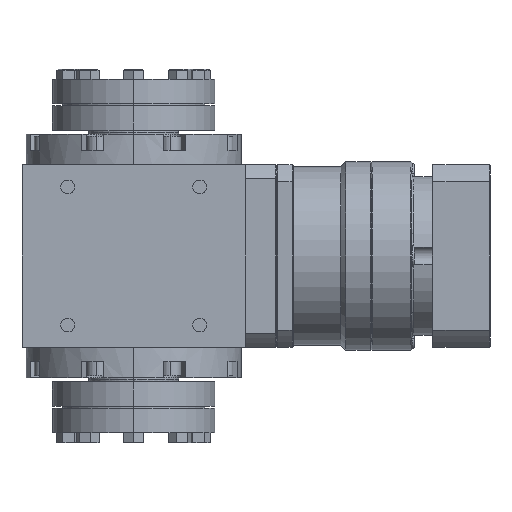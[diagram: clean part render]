
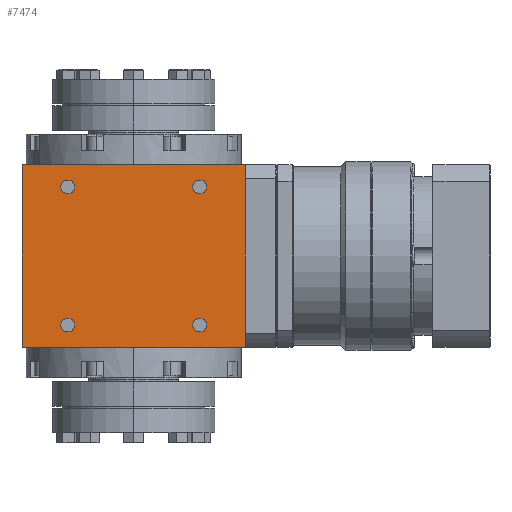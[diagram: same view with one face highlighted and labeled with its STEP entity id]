
A CAD part, left-side view. The second image highlights one B-rep face of the part: STEP entity #7474.
In plain terms, the highlighted planar face has unit normal (-1, 0, 0).
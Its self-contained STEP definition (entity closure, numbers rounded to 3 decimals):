
#192 = VECTOR ( 'NONE', #27495, 1000. ) ;
#566 = DIRECTION ( 'NONE',  ( 0., -1., 0. ) ) ;
#2535 = DIRECTION ( 'NONE',  ( 0., -1., 0. ) ) ;
#2715 = AXIS2_PLACEMENT_3D ( 'NONE', #11948, #23402, #9134 ) ;
#3627 = VERTEX_POINT ( 'NONE', #36819 ) ;
#4013 = EDGE_CURVE ( 'NONE', #25748, #35798, #10346, .T. ) ;
#4067 = CARTESIAN_POINT ( 'NONE',  ( -55., -55., 45. ) ) ;
#5094 = ORIENTED_EDGE ( 'NONE', *, *, #4013, .F. ) ;
#5276 = VERTEX_POINT ( 'NONE', #4067 ) ;
#5496 = LINE ( 'NONE', #11122, #192 ) ;
#5832 = EDGE_LOOP ( 'NONE', ( #14147, #25039 ) ) ;
#6350 = DIRECTION ( 'NONE',  ( 1., 0., 0. ) ) ;
#6652 = ORIENTED_EDGE ( 'NONE', *, *, #25145, .T. ) ;
#6790 = ORIENTED_EDGE ( 'NONE', *, *, #32223, .T. ) ;
#6847 = EDGE_CURVE ( 'NONE', #36413, #5276, #8997, .T. ) ;
#7474 = ADVANCED_FACE ( 'NONE', ( #22229, #28388, #12701, #8329, #19777 ), #30662, .T. ) ;
#7531 = VERTEX_POINT ( 'NONE', #30852 ) ;
#7537 = CARTESIAN_POINT ( 'NONE',  ( -55., 55., -45. ) ) ;
#7595 = DIRECTION ( 'NONE',  ( 1., 0., 0. ) ) ;
#7823 = VERTEX_POINT ( 'NONE', #21449 ) ;
#7858 = VERTEX_POINT ( 'NONE', #28164 ) ;
#7921 = DIRECTION ( 'NONE',  ( 0., -1., 0. ) ) ;
#8092 = EDGE_CURVE ( 'NONE', #11509, #19684, #22228, .T. ) ;
#8329 = FACE_BOUND ( 'NONE', #33031, .T. ) ;
#8621 = CARTESIAN_POINT ( 'NONE',  ( -55., 29.1, 34. ) ) ;
#8997 = LINE ( 'NONE', #20094, #31235 ) ;
#9020 = ORIENTED_EDGE ( 'NONE', *, *, #16186, .T. ) ;
#9134 = DIRECTION ( 'NONE',  ( 0., -1., 0. ) ) ;
#9216 = EDGE_CURVE ( 'NONE', #7531, #7858, #16487, .T. ) ;
#9845 = CARTESIAN_POINT ( 'NONE',  ( -55., 32.5, -34. ) ) ;
#10288 = AXIS2_PLACEMENT_3D ( 'NONE', #25000, #33623, #7921 ) ;
#10346 = LINE ( 'NONE', #7537, #15539 ) ;
#10844 = CIRCLE ( 'NONE', #30016, 3.4 ) ;
#10940 = VERTEX_POINT ( 'NONE', #17316 ) ;
#11026 = CARTESIAN_POINT ( 'NONE',  ( -55., 55., -45. ) ) ;
#11122 = CARTESIAN_POINT ( 'NONE',  ( -55., 0., -45. ) ) ;
#11414 = AXIS2_PLACEMENT_3D ( 'NONE', #24156, #33666, #35582 ) ;
#11509 = VERTEX_POINT ( 'NONE', #24015 ) ;
#11567 = CARTESIAN_POINT ( 'NONE',  ( -55., -32.5, 34. ) ) ;
#11629 = DIRECTION ( 'NONE',  ( 0., 0., 1. ) ) ;
#11948 = CARTESIAN_POINT ( 'NONE',  ( -55., 32.5, -34. ) ) ;
#12098 = DIRECTION ( 'NONE',  ( 0., -1., 0. ) ) ;
#12550 = DIRECTION ( 'NONE',  ( 1., 0., 0. ) ) ;
#12701 = FACE_BOUND ( 'NONE', #16538, .T. ) ;
#13368 = CIRCLE ( 'NONE', #18800, 3.4 ) ;
#14147 = ORIENTED_EDGE ( 'NONE', *, *, #24860, .T. ) ;
#15010 = CARTESIAN_POINT ( 'NONE',  ( -55., 0., 45. ) ) ;
#15182 = CARTESIAN_POINT ( 'NONE',  ( -55., -32.5, -34. ) ) ;
#15539 = VECTOR ( 'NONE', #15794, 1000. ) ;
#15794 = DIRECTION ( 'NONE',  ( 0., 0., 1. ) ) ;
#16186 = EDGE_CURVE ( 'NONE', #19684, #11509, #10844, .T. ) ;
#16487 = CIRCLE ( 'NONE', #31441, 3.4 ) ;
#16538 = EDGE_LOOP ( 'NONE', ( #24481, #21597 ) ) ;
#16617 = ORIENTED_EDGE ( 'NONE', *, *, #6847, .T. ) ;
#17316 = CARTESIAN_POINT ( 'NONE',  ( -55., -35.9, 34. ) ) ;
#17396 = DIRECTION ( 'NONE',  ( 1., 0., 0. ) ) ;
#17658 = LINE ( 'NONE', #15010, #32680 ) ;
#18790 = AXIS2_PLACEMENT_3D ( 'NONE', #11567, #17396, #23210 ) ;
#18800 = AXIS2_PLACEMENT_3D ( 'NONE', #9845, #24303, #12098 ) ;
#19684 = VERTEX_POINT ( 'NONE', #8621 ) ;
#19777 = FACE_BOUND ( 'NONE', #5832, .T. ) ;
#20094 = CARTESIAN_POINT ( 'NONE',  ( -55., -55., -45. ) ) ;
#20609 = CARTESIAN_POINT ( 'NONE',  ( -55., 32.5, 34. ) ) ;
#20794 = DIRECTION ( 'NONE',  ( 1., 0., 0. ) ) ;
#21032 = DIRECTION ( 'NONE',  ( 0., -1., 0. ) ) ;
#21449 = CARTESIAN_POINT ( 'NONE',  ( -55., 29.1, -34. ) ) ;
#21597 = ORIENTED_EDGE ( 'NONE', *, *, #9216, .T. ) ;
#21685 = CIRCLE ( 'NONE', #10288, 3.4 ) ;
#21977 = EDGE_CURVE ( 'NONE', #25745, #10940, #21685, .T. ) ;
#22228 = CIRCLE ( 'NONE', #26999, 3.4 ) ;
#22229 = FACE_OUTER_BOUND ( 'NONE', #36370, .T. ) ;
#22471 = CIRCLE ( 'NONE', #25431, 3.4 ) ;
#23210 = DIRECTION ( 'NONE',  ( 0., -1., 0. ) ) ;
#23402 = DIRECTION ( 'NONE',  ( 1., 0., 0. ) ) ;
#23786 = DIRECTION ( 'NONE',  ( 0., -1., 0. ) ) ;
#24015 = CARTESIAN_POINT ( 'NONE',  ( -55., 35.9, 34. ) ) ;
#24156 = CARTESIAN_POINT ( 'NONE',  ( -55., 55., -45. ) ) ;
#24303 = DIRECTION ( 'NONE',  ( 1., 0., 0. ) ) ;
#24481 = ORIENTED_EDGE ( 'NONE', *, *, #27856, .T. ) ;
#24860 = EDGE_CURVE ( 'NONE', #10940, #25745, #33750, .T. ) ;
#25000 = CARTESIAN_POINT ( 'NONE',  ( -55., -32.5, 34. ) ) ;
#25039 = ORIENTED_EDGE ( 'NONE', *, *, #21977, .T. ) ;
#25145 = EDGE_CURVE ( 'NONE', #25748, #36413, #5496, .T. ) ;
#25431 = AXIS2_PLACEMENT_3D ( 'NONE', #15182, #12550, #566 ) ;
#25745 = VERTEX_POINT ( 'NONE', #36721 ) ;
#25748 = VERTEX_POINT ( 'NONE', #11026 ) ;
#26999 = AXIS2_PLACEMENT_3D ( 'NONE', #20609, #6350, #32038 ) ;
#27495 = DIRECTION ( 'NONE',  ( 0., -1., 0. ) ) ;
#27559 = CARTESIAN_POINT ( 'NONE',  ( -55., -55., -45. ) ) ;
#27856 = EDGE_CURVE ( 'NONE', #7858, #7531, #22471, .T. ) ;
#28164 = CARTESIAN_POINT ( 'NONE',  ( -55., -35.9, -34. ) ) ;
#28388 = FACE_BOUND ( 'NONE', #34681, .T. ) ;
#29624 = EDGE_CURVE ( 'NONE', #3627, #7823, #35032, .T. ) ;
#29920 = ORIENTED_EDGE ( 'NONE', *, *, #29624, .T. ) ;
#30016 = AXIS2_PLACEMENT_3D ( 'NONE', #36092, #7595, #2535 ) ;
#30662 = PLANE ( 'NONE',  #11414 ) ;
#30852 = CARTESIAN_POINT ( 'NONE',  ( -55., -29.1, -34. ) ) ;
#31235 = VECTOR ( 'NONE', #11629, 1000. ) ;
#31441 = AXIS2_PLACEMENT_3D ( 'NONE', #32023, #20794, #23786 ) ;
#32023 = CARTESIAN_POINT ( 'NONE',  ( -55., -32.5, -34. ) ) ;
#32038 = DIRECTION ( 'NONE',  ( 0., -1., 0. ) ) ;
#32223 = EDGE_CURVE ( 'NONE', #7823, #3627, #13368, .T. ) ;
#32680 = VECTOR ( 'NONE', #21032, 1000. ) ;
#33031 = EDGE_LOOP ( 'NONE', ( #6790, #29920 ) ) ;
#33623 = DIRECTION ( 'NONE',  ( 1., 0., 0. ) ) ;
#33666 = DIRECTION ( 'NONE',  ( -1., 0., 0. ) ) ;
#33750 = CIRCLE ( 'NONE', #18790, 3.4 ) ;
#34236 = CARTESIAN_POINT ( 'NONE',  ( -55., 55., 45. ) ) ;
#34378 = ORIENTED_EDGE ( 'NONE', *, *, #8092, .T. ) ;
#34451 = EDGE_CURVE ( 'NONE', #35798, #5276, #17658, .T. ) ;
#34681 = EDGE_LOOP ( 'NONE', ( #9020, #34378 ) ) ;
#35032 = CIRCLE ( 'NONE', #2715, 3.4 ) ;
#35121 = ORIENTED_EDGE ( 'NONE', *, *, #34451, .F. ) ;
#35582 = DIRECTION ( 'NONE',  ( 0., 0., 1. ) ) ;
#35798 = VERTEX_POINT ( 'NONE', #34236 ) ;
#36092 = CARTESIAN_POINT ( 'NONE',  ( -55., 32.5, 34. ) ) ;
#36370 = EDGE_LOOP ( 'NONE', ( #5094, #6652, #16617, #35121 ) ) ;
#36413 = VERTEX_POINT ( 'NONE', #27559 ) ;
#36721 = CARTESIAN_POINT ( 'NONE',  ( -55., -29.1, 34. ) ) ;
#36819 = CARTESIAN_POINT ( 'NONE',  ( -55., 35.9, -34. ) ) ;
